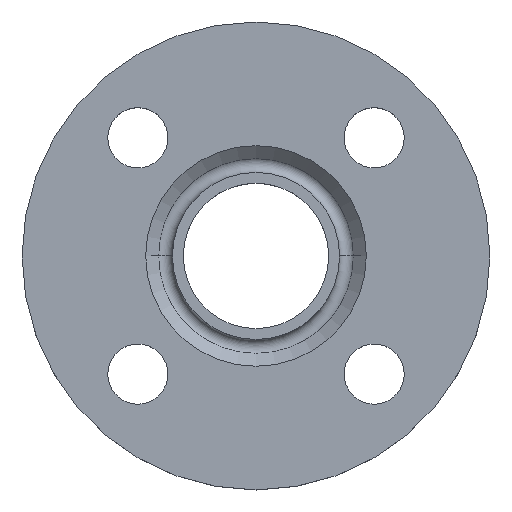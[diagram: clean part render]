
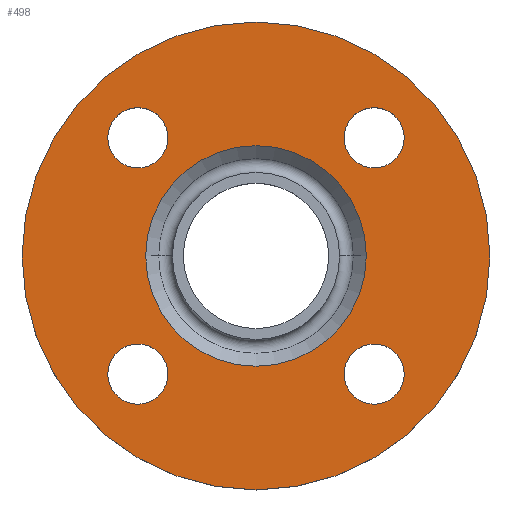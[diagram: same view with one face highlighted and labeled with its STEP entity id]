
A CAD part, top view. The second image highlights one B-rep face of the part: STEP entity #498.
In plain terms, the highlighted planar face has unit normal (0, 0, 1).
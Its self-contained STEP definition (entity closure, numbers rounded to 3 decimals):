
#5 = AXIS2_PLACEMENT_3D ( 'NONE', #434, #647, #168 ) ;
#8 = EDGE_LOOP ( 'NONE', ( #149, #213 ) ) ;
#10 = DIRECTION ( 'NONE',  ( 0., 0., 1. ) ) ;
#24 = EDGE_CURVE ( 'NONE', #645, #275, #125, .T. ) ;
#28 = CARTESIAN_POINT ( 'NONE',  ( 0., 0., -2. ) ) ;
#50 = CARTESIAN_POINT ( 'NONE',  ( -70., 0., -2. ) ) ;
#59 = EDGE_CURVE ( 'NONE', #648, #325, #630, .T. ) ;
#63 = FACE_OUTER_BOUND ( 'NONE', #479, .T. ) ;
#76 = AXIS2_PLACEMENT_3D ( 'NONE', #382, #603, #126 ) ;
#78 = EDGE_CURVE ( 'NONE', #229, #170, #345, .T. ) ;
#86 = CARTESIAN_POINT ( 'NONE',  ( -33., 0., -2. ) ) ;
#98 = AXIS2_PLACEMENT_3D ( 'NONE', #135, #343, #564 ) ;
#112 = CIRCLE ( 'NONE', #499, 9. ) ;
#114 = FACE_BOUND ( 'NONE', #626, .T. ) ;
#116 = ORIENTED_EDGE ( 'NONE', *, *, #24, .T. ) ;
#121 = ORIENTED_EDGE ( 'NONE', *, *, #280, .T. ) ;
#124 = DIRECTION ( 'NONE',  ( 1., 0., 0. ) ) ;
#125 = CIRCLE ( 'NONE', #217, 9. ) ;
#126 = DIRECTION ( 'NONE',  ( 1., 0., 0. ) ) ;
#135 = CARTESIAN_POINT ( 'NONE',  ( 35.355, 35.355, -2. ) ) ;
#136 = ORIENTED_EDGE ( 'NONE', *, *, #650, .T. ) ;
#139 = DIRECTION ( 'NONE',  ( 0., 0., -1. ) ) ;
#141 = VERTEX_POINT ( 'NONE', #503 ) ;
#144 = EDGE_LOOP ( 'NONE', ( #222, #547 ) ) ;
#149 = ORIENTED_EDGE ( 'NONE', *, *, #511, .T. ) ;
#154 = DIRECTION ( 'NONE',  ( 0., 0., -1. ) ) ;
#161 = DIRECTION ( 'NONE',  ( -1., 0., 0. ) ) ;
#168 = DIRECTION ( 'NONE',  ( -1., 0., 0. ) ) ;
#170 = VERTEX_POINT ( 'NONE', #566 ) ;
#174 = VERTEX_POINT ( 'NONE', #86 ) ;
#187 = CIRCLE ( 'NONE', #278, 9. ) ;
#188 = CARTESIAN_POINT ( 'NONE',  ( -26.355, 35.355, -2. ) ) ;
#193 = CARTESIAN_POINT ( 'NONE',  ( 35.355, -35.355, -2. ) ) ;
#197 = DIRECTION ( 'NONE',  ( 0., 0., -1. ) ) ;
#201 = CARTESIAN_POINT ( 'NONE',  ( -44.355, 35.355, -2. ) ) ;
#209 = DIRECTION ( 'NONE',  ( 0., 0., -1. ) ) ;
#213 = ORIENTED_EDGE ( 'NONE', *, *, #230, .T. ) ;
#217 = AXIS2_PLACEMENT_3D ( 'NONE', #633, #154, #361 ) ;
#219 = CIRCLE ( 'NONE', #606, 70. ) ;
#221 = DIRECTION ( 'NONE',  ( 1., 0., 0. ) ) ;
#222 = ORIENTED_EDGE ( 'NONE', *, *, #78, .T. ) ;
#224 = CIRCLE ( 'NONE', #613, 9. ) ;
#229 = VERTEX_POINT ( 'NONE', #464 ) ;
#230 = EDGE_CURVE ( 'NONE', #174, #344, #259, .T. ) ;
#238 = DIRECTION ( 'NONE',  ( 0., 0., -1. ) ) ;
#259 = CIRCLE ( 'NONE', #649, 33. ) ;
#262 = AXIS2_PLACEMENT_3D ( 'NONE', #193, #409, #283 ) ;
#270 = PLANE ( 'NONE',  #601 ) ;
#275 = VERTEX_POINT ( 'NONE', #201 ) ;
#278 = AXIS2_PLACEMENT_3D ( 'NONE', #691, #209, #421 ) ;
#280 = EDGE_CURVE ( 'NONE', #325, #648, #224, .T. ) ;
#283 = DIRECTION ( 'NONE',  ( 1., 0., 0. ) ) ;
#301 = VERTEX_POINT ( 'NONE', #50 ) ;
#304 = CIRCLE ( 'NONE', #5, 33. ) ;
#305 = ORIENTED_EDGE ( 'NONE', *, *, #329, .T. ) ;
#317 = CIRCLE ( 'NONE', #402, 70. ) ;
#323 = FACE_BOUND ( 'NONE', #621, .T. ) ;
#325 = VERTEX_POINT ( 'NONE', #474 ) ;
#329 = EDGE_CURVE ( 'NONE', #141, #681, #187, .T. ) ;
#335 = CARTESIAN_POINT ( 'NONE',  ( 44.355, 35.355, -2. ) ) ;
#343 = DIRECTION ( 'NONE',  ( 0., 0., -1. ) ) ;
#344 = VERTEX_POINT ( 'NONE', #583 ) ;
#345 = CIRCLE ( 'NONE', #440, 9. ) ;
#349 = DIRECTION ( 'NONE',  ( 1., 0., 0. ) ) ;
#354 = ORIENTED_EDGE ( 'NONE', *, *, #602, .F. ) ;
#361 = DIRECTION ( 'NONE',  ( 1., 0., 0. ) ) ;
#371 = FACE_BOUND ( 'NONE', #465, .T. ) ;
#380 = EDGE_CURVE ( 'NONE', #593, #301, #317, .T. ) ;
#381 = CARTESIAN_POINT ( 'NONE',  ( -35.355, -35.355, -2. ) ) ;
#382 = CARTESIAN_POINT ( 'NONE',  ( -35.355, -35.355, -2. ) ) ;
#387 = CIRCLE ( 'NONE', #98, 9. ) ;
#401 = CARTESIAN_POINT ( 'NONE',  ( 44.355, -35.355, -2. ) ) ;
#402 = AXIS2_PLACEMENT_3D ( 'NONE', #424, #637, #161 ) ;
#409 = DIRECTION ( 'NONE',  ( 0., 0., -1. ) ) ;
#412 = DIRECTION ( 'NONE',  ( -1., 0., 0. ) ) ;
#416 = CARTESIAN_POINT ( 'NONE',  ( 35.355, -35.355, -2. ) ) ;
#421 = DIRECTION ( 'NONE',  ( 1., 0., 0. ) ) ;
#424 = CARTESIAN_POINT ( 'NONE',  ( 0., 0., -2. ) ) ;
#434 = CARTESIAN_POINT ( 'NONE',  ( 0., 0., -2. ) ) ;
#440 = AXIS2_PLACEMENT_3D ( 'NONE', #381, #600, #124 ) ;
#451 = DIRECTION ( 'NONE',  ( -1., 0., 0. ) ) ;
#464 = CARTESIAN_POINT ( 'NONE',  ( -26.355, -35.355, -2. ) ) ;
#465 = EDGE_LOOP ( 'NONE', ( #514, #121 ) ) ;
#474 = CARTESIAN_POINT ( 'NONE',  ( 26.355, -35.355, -2. ) ) ;
#479 = EDGE_LOOP ( 'NONE', ( #515, #354 ) ) ;
#484 = CARTESIAN_POINT ( 'NONE',  ( 70., 0., -2. ) ) ;
#498 = ADVANCED_FACE ( 'NONE', ( #371, #590, #114, #323, #542, #63 ), #270, .T. ) ;
#499 = AXIS2_PLACEMENT_3D ( 'NONE', #617, #139, #349 ) ;
#503 = CARTESIAN_POINT ( 'NONE',  ( 26.355, 35.355, -2. ) ) ;
#511 = EDGE_CURVE ( 'NONE', #344, #174, #304, .T. ) ;
#514 = ORIENTED_EDGE ( 'NONE', *, *, #59, .T. ) ;
#515 = ORIENTED_EDGE ( 'NONE', *, *, #380, .F. ) ;
#528 = DIRECTION ( 'NONE',  ( 1., 0., 0. ) ) ;
#542 = FACE_BOUND ( 'NONE', #8, .T. ) ;
#547 = ORIENTED_EDGE ( 'NONE', *, *, #678, .T. ) ;
#564 = DIRECTION ( 'NONE',  ( 1., 0., 0. ) ) ;
#566 = CARTESIAN_POINT ( 'NONE',  ( -44.355, -35.355, -2. ) ) ;
#583 = CARTESIAN_POINT ( 'NONE',  ( 33., 0., -2. ) ) ;
#590 = FACE_BOUND ( 'NONE', #144, .T. ) ;
#593 = VERTEX_POINT ( 'NONE', #608 ) ;
#600 = DIRECTION ( 'NONE',  ( 0., 0., -1. ) ) ;
#601 = AXIS2_PLACEMENT_3D ( 'NONE', #484, #10, #221 ) ;
#602 = EDGE_CURVE ( 'NONE', #301, #593, #219, .T. ) ;
#603 = DIRECTION ( 'NONE',  ( 0., 0., -1. ) ) ;
#606 = AXIS2_PLACEMENT_3D ( 'NONE', #28, #238, #451 ) ;
#608 = CARTESIAN_POINT ( 'NONE',  ( 70., 0., -2. ) ) ;
#613 = AXIS2_PLACEMENT_3D ( 'NONE', #416, #627, #528 ) ;
#617 = CARTESIAN_POINT ( 'NONE',  ( -35.355, 35.355, -2. ) ) ;
#621 = EDGE_LOOP ( 'NONE', ( #646, #305 ) ) ;
#622 = EDGE_CURVE ( 'NONE', #681, #141, #387, .T. ) ;
#626 = EDGE_LOOP ( 'NONE', ( #116, #136 ) ) ;
#627 = DIRECTION ( 'NONE',  ( 0., 0., -1. ) ) ;
#630 = CIRCLE ( 'NONE', #262, 9. ) ;
#633 = CARTESIAN_POINT ( 'NONE',  ( -35.355, 35.355, -2. ) ) ;
#637 = DIRECTION ( 'NONE',  ( 0., 0., -1. ) ) ;
#645 = VERTEX_POINT ( 'NONE', #188 ) ;
#646 = ORIENTED_EDGE ( 'NONE', *, *, #622, .T. ) ;
#647 = DIRECTION ( 'NONE',  ( 0., 0., -1. ) ) ;
#648 = VERTEX_POINT ( 'NONE', #401 ) ;
#649 = AXIS2_PLACEMENT_3D ( 'NONE', #682, #197, #412 ) ;
#650 = EDGE_CURVE ( 'NONE', #275, #645, #112, .T. ) ;
#678 = EDGE_CURVE ( 'NONE', #170, #229, #684, .T. ) ;
#681 = VERTEX_POINT ( 'NONE', #335 ) ;
#682 = CARTESIAN_POINT ( 'NONE',  ( 0., 0., -2. ) ) ;
#684 = CIRCLE ( 'NONE', #76, 9. ) ;
#691 = CARTESIAN_POINT ( 'NONE',  ( 35.355, 35.355, -2. ) ) ;
